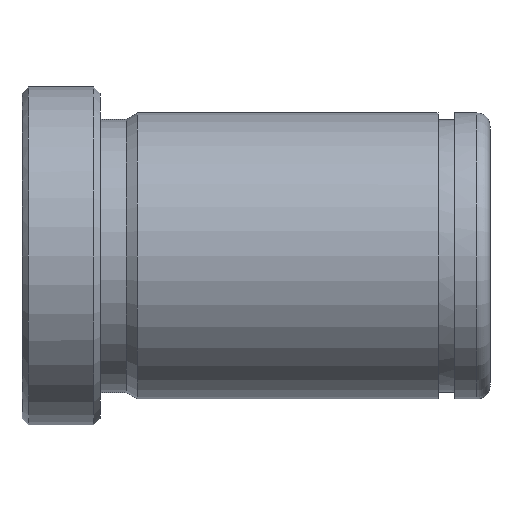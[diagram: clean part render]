
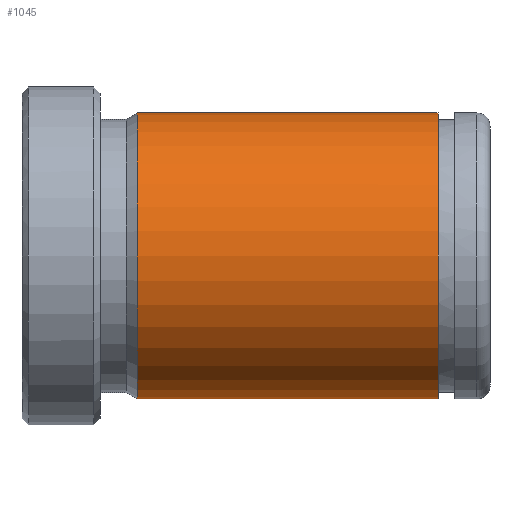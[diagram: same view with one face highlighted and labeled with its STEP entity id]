
A CAD part, front view. The second image highlights one B-rep face of the part: STEP entity #1045.
In plain terms, the highlighted cylindrical face has radius 11 mm (diameter 22 mm), a partial arc.
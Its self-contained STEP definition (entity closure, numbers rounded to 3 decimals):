
#851=CARTESIAN_POINT('Vertex',(8.866,0.,-11.)) ;
#858=CARTESIAN_POINT('Vertex',(8.866,0.,11.)) ;
#887=CARTESIAN_POINT('Axis2P3D Location',(8.866,0.,0.)) ;
#891=CARTESIAN_POINT('Vertex',(8.866,-11.,0.)) ;
#894=CARTESIAN_POINT('Axis2P3D Location',(8.866,0.,0.)) ;
#985=CARTESIAN_POINT('Line Origine',(72.,0.,11.)) ;
#989=CARTESIAN_POINT('Vertex',(32.,0.,11.)) ;
#1003=CARTESIAN_POINT('Vertex',(32.,0.,-11.)) ;
#1006=CARTESIAN_POINT('Line Origine',(72.,0.,-11.)) ;
#1020=CARTESIAN_POINT('Axis2P3D Location',(72.,0.,0.)) ;
#1025=CARTESIAN_POINT('Axis2P3D Location',(32.,0.,0.)) ;
#1029=CARTESIAN_POINT('Vertex',(32.,-11.,0.)) ;
#1032=CARTESIAN_POINT('Axis2P3D Location',(32.,0.,0.)) ;
#888=DIRECTION('Axis2P3D Direction',(1.,0.,-0.)) ;
#895=DIRECTION('Axis2P3D Direction',(1.,0.,-0.)) ;
#986=DIRECTION('Vector Direction',(-1.,0.,0.)) ;
#1007=DIRECTION('Vector Direction',(-1.,0.,0.)) ;
#1021=DIRECTION('Axis2P3D Direction',(-1.,-0.,-0.)) ;
#1022=DIRECTION('Axis2P3D XDirection',(0.,0.,-1.)) ;
#1026=DIRECTION('Axis2P3D Direction',(-1.,-0.,-0.)) ;
#1033=DIRECTION('Axis2P3D Direction',(-1.,-0.,-0.)) ;
#889=AXIS2_PLACEMENT_3D('Circle Axis2P3D',#887,#888,$) ;
#896=AXIS2_PLACEMENT_3D('Circle Axis2P3D',#894,#895,$) ;
#1023=AXIS2_PLACEMENT_3D('Cylinder Axis2P3D',#1020,#1021,#1022) ;
#1027=AXIS2_PLACEMENT_3D('Circle Axis2P3D',#1025,#1026,$) ;
#1034=AXIS2_PLACEMENT_3D('Circle Axis2P3D',#1032,#1033,$) ;
#1038=ORIENTED_EDGE('',*,*,#1010,.T.) ;
#1039=ORIENTED_EDGE('',*,*,#1031,.F.) ;
#1040=ORIENTED_EDGE('',*,*,#1036,.F.) ;
#1041=ORIENTED_EDGE('',*,*,#991,.T.) ;
#1042=ORIENTED_EDGE('',*,*,#898,.T.) ;
#1043=ORIENTED_EDGE('',*,*,#893,.T.) ;
#987=VECTOR('Line Direction',#986,1.) ;
#1008=VECTOR('Line Direction',#1007,1.) ;
#1045=ADVANCED_FACE('553-16X36',(#1044),#1024,.T.) ;
#890=CIRCLE('generated circle',#889,11.) ;
#897=CIRCLE('generated circle',#896,11.) ;
#1028=CIRCLE('generated circle',#1027,11.) ;
#1035=CIRCLE('generated circle',#1034,11.) ;
#1024=CYLINDRICAL_SURFACE('generated cylinder',#1023,11.) ;
#893=EDGE_CURVE('',#892,#852,#890,.T.) ;
#898=EDGE_CURVE('',#859,#892,#897,.T.) ;
#991=EDGE_CURVE('',#990,#859,#988,.T.) ;
#1010=EDGE_CURVE('',#852,#1004,#1009,.F.) ;
#1031=EDGE_CURVE('',#1030,#1004,#1028,.F.) ;
#1036=EDGE_CURVE('',#990,#1030,#1035,.F.) ;
#1037=EDGE_LOOP('',(#1038,#1039,#1040,#1041,#1042,#1043)) ;
#1044=FACE_OUTER_BOUND('',#1037,.T.) ;
#988=LINE('Line',#985,#987) ;
#1009=LINE('Line',#1006,#1008) ;
#852=VERTEX_POINT('',#851) ;
#859=VERTEX_POINT('',#858) ;
#892=VERTEX_POINT('',#891) ;
#990=VERTEX_POINT('',#989) ;
#1004=VERTEX_POINT('',#1003) ;
#1030=VERTEX_POINT('',#1029) ;
